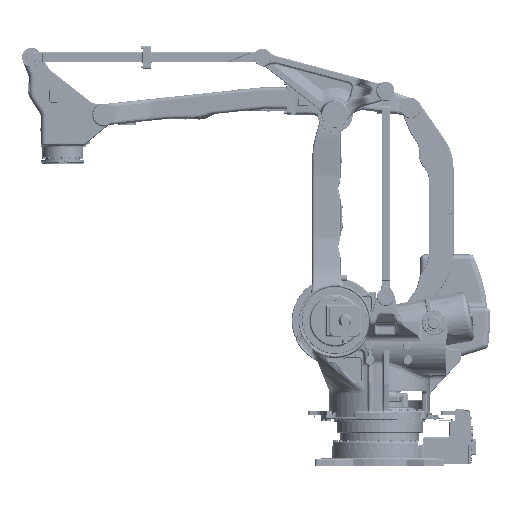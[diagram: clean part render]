
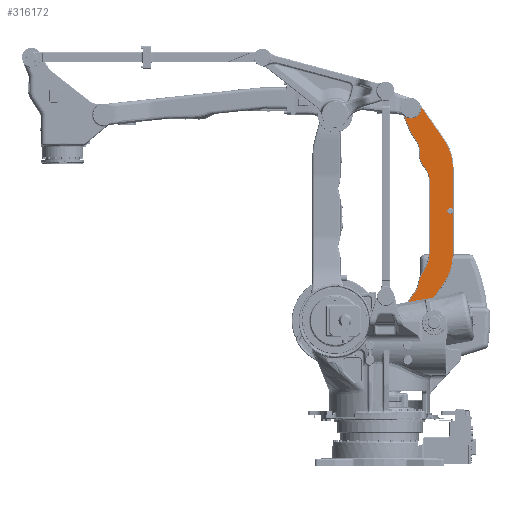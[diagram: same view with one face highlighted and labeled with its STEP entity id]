
A CAD part, top view. The second image highlights one B-rep face of the part: STEP entity #316172.
In plain terms, the highlighted planar face has unit normal (0, 0, 1).
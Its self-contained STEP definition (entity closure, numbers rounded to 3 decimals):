
#313957=DIRECTION('',(0.,1.,0.));
#313958=VECTOR('',#313957,250.596);
#313959=CARTESIAN_POINT('',(443.25,1284.546,-76.5));
#313960=LINE('',#313959,#313958);
#313961=CARTESIAN_POINT('',(138.25,1284.546,-76.5));
#313962=DIRECTION('',(0.,0.,1.));
#313963=DIRECTION('',(0.819,-0.574,0.));
#313964=AXIS2_PLACEMENT_3D('',#313961,#313962,#313963);
#313966=DIRECTION('',(0.574,0.819,0.));
#313967=VECTOR('',#313966,237.139);
#313968=CARTESIAN_POINT('',(252.074,915.353,
-76.5));
#313969=LINE('',#313968,#313967);
#313970=DIRECTION('',(-0.574,-0.819,0.));
#313971=VECTOR('',#313970,98.016);
#313972=CARTESIAN_POINT('',(218.187,1058.736,-76.5));
#313973=LINE('',#313972,#313971);
#313974=CARTESIAN_POINT('',(132.176,1118.961,-76.5));
#313975=DIRECTION('',(0.,0.,-1.));
#313976=DIRECTION('',(0.974,-0.228,0.));
#313977=AXIS2_PLACEMENT_3D('',#313974,#313975,#313976);
#313979=DIRECTION('',(-0.228,-0.974,0.));
#313980=VECTOR('',#313979,42.261);
#313981=CARTESIAN_POINT('',(244.051,1136.132,-76.5));
#313982=LINE('',#313981,#313980);
#313983=CARTESIAN_POINT('',(336.542,1114.441,-76.5));
#313984=DIRECTION('',(0.,0.,1.));
#313985=DIRECTION('',(-0.819,0.574,0.));
#313986=AXIS2_PLACEMENT_3D('',#313983,#313984,#313985);
#313988=DIRECTION('',(-0.574,-0.819,0.));
#313989=VECTOR('',#313988,12.994);
#313990=CARTESIAN_POINT('',(266.176,1179.575,-76.5));
#313991=LINE('',#313990,#313989);
#313992=CARTESIAN_POINT('',(98.25,1297.158,-76.5));
#313993=DIRECTION('',(0.,0.,-1.));
#313994=DIRECTION('',(1.,0.,0.));
#313995=AXIS2_PLACEMENT_3D('',#313992,#313993,#313994);
#313997=DIRECTION('',(0.,-1.,0.));
#313998=VECTOR('',#313997,437.397);
#313999=CARTESIAN_POINT('',(303.25,1734.555,-76.5));
#314000=LINE('',#313999,#313998);
#314001=CARTESIAN_POINT('',(198.25,1734.555,-76.5));
#314002=DIRECTION('',(0.,0.,-1.));
#314003=DIRECTION('',(0.819,0.574,0.));
#314004=AXIS2_PLACEMENT_3D('',#314001,#314002,#314003);
#314006=DIRECTION('',(0.574,-0.819,0.));
#314007=VECTOR('',#314006,41.547);
#314008=CARTESIAN_POINT('',(260.43,1828.814,-76.5));
#314009=LINE('',#314008,#314007);
#314010=CARTESIAN_POINT('',(338.25,1883.304,-76.5));
#314011=DIRECTION('',(0.,0.,1.));
#314012=DIRECTION('',(-1.,0.,0.));
#314013=AXIS2_PLACEMENT_3D('',#314010,#314011,#314012);
#314015=DIRECTION('',(0.,-1.,0.));
#314016=VECTOR('',#314015,26.94);
#314017=CARTESIAN_POINT('',(243.25,1910.244,-76.5));
#314018=LINE('',#314017,#314016);
#314019=CARTESIAN_POINT('',(138.25,1910.244,-76.5));
#314020=DIRECTION('',(0.,0.,-1.));
#314021=DIRECTION('',(0.819,0.574,0.));
#314022=AXIS2_PLACEMENT_3D('',#314019,#314020,#314021);
#314024=DIRECTION('',(0.574,-0.819,0.));
#314025=VECTOR('',#314024,44.674);
#314026=CARTESIAN_POINT('',(198.636,2007.065,-76.5));
#314027=LINE('',#314026,#314025);
#314028=CARTESIAN_POINT('',(276.456,2061.554,-76.5));
#314029=DIRECTION('',(0.,0.,1.));
#314030=DIRECTION('',(-0.924,-0.382,0.));
#314031=AXIS2_PLACEMENT_3D('',#314028,#314029,#314030);
#314033=DIRECTION('',(0.382,-0.924,0.));
#314034=VECTOR('',#314033,101.291);
#314035=CARTESIAN_POINT('',(149.943,2118.821,
-76.5));
#314036=LINE('',#314035,#314034);
#314037=DIRECTION('',(-0.574,0.819,0.));
#314038=VECTOR('',#314037,237.139);
#314039=CARTESIAN_POINT('',(388.091,1980.578,-76.5));
#314040=LINE('',#314039,#314038);
#314041=CARTESIAN_POINT('',(138.25,1805.637,-76.5));
#314042=DIRECTION('',(0.,0.,1.));
#314043=DIRECTION('',(1.,0.,0.));
#314044=AXIS2_PLACEMENT_3D('',#314041,#314042,#314043);
#314046=DIRECTION('',(0.,1.,0.));
#314047=VECTOR('',#314046,250.596);
#314048=CARTESIAN_POINT('',(443.25,1555.042,-76.5));
#314049=LINE('',#314048,#314047);
#314050=CARTESIAN_POINT('',(428.25,1545.092,-76.5));
#314051=DIRECTION('',(0.,0.,-1.));
#314052=DIRECTION('',(0.833,-0.553,0.));
#314053=AXIS2_PLACEMENT_3D('',#314050,#314051,#314052);
#314117=CARTESIAN_POINT('',(443.25,1535.142,-76.5));
#314130=CARTESIAN_POINT('',(443.25,1555.042,-76.5));
#314713=CARTESIAN_POINT('',(252.074,2174.831,
-76.5));
#314724=CARTESIAN_POINT('',(188.25,2170.092,-76.5));
#314725=DIRECTION('',(0.,0.,-1.));
#314726=DIRECTION('',(0.997,0.074,0.));
#314727=AXIS2_PLACEMENT_3D('',#314724,#314725,#314726);
#314749=CARTESIAN_POINT('',(149.943,2118.821,
-76.5));
#314887=CARTESIAN_POINT('',(188.25,920.092,-76.5));
#314888=DIRECTION('',(0.,0.,-1.));
#314889=DIRECTION('',(-0.411,0.912,0.));
#314890=AXIS2_PLACEMENT_3D('',#314887,#314888,#314889);
#315729=CARTESIAN_POINT('',(266.176,1179.575,-76.5));
#315730=CARTESIAN_POINT('',(258.722,1168.93,-76.5));
#315731=VERTEX_POINT('',#315729);
#315732=VERTEX_POINT('',#315730);
#315737=CARTESIAN_POINT('',(303.25,1297.158,-76.5));
#315738=VERTEX_POINT('',#315737);
#315741=CARTESIAN_POINT('',(303.25,1734.555,-76.5));
#315742=VERTEX_POINT('',#315741);
#315745=CARTESIAN_POINT('',(284.261,1794.781,-76.5));
#315746=VERTEX_POINT('',#315745);
#315749=CARTESIAN_POINT('',(260.43,1828.814,-76.5));
#315750=VERTEX_POINT('',#315749);
#315753=CARTESIAN_POINT('',(243.25,1883.304,-76.5));
#315754=VERTEX_POINT('',#315753);
#315757=CARTESIAN_POINT('',(243.25,1910.244,-76.5));
#315758=VERTEX_POINT('',#315757);
#315761=CARTESIAN_POINT('',(224.261,1970.47,-76.5));
#315762=VERTEX_POINT('',#315761);
#315765=CARTESIAN_POINT('',(198.636,2007.065,-76.5));
#315766=VERTEX_POINT('',#315765);
#315769=CARTESIAN_POINT('',(188.676,2025.228,-76.5));
#315770=VERTEX_POINT('',#315769);
#315820=VERTEX_POINT('',#314749);
#315821=CARTESIAN_POINT('',(161.967,978.446,
-76.5));
#315823=VERTEX_POINT('',#315821);
#315866=VERTEX_POINT('',#314713);
#315867=CARTESIAN_POINT('',(388.091,1980.578,-76.5));
#315868=VERTEX_POINT('',#315867);
#315871=CARTESIAN_POINT('',(443.25,1805.637,-76.5));
#315872=VERTEX_POINT('',#315871);
#315877=CARTESIAN_POINT('',(388.091,1109.605,-76.5));
#315878=CARTESIAN_POINT('',(443.25,1284.546,-76.5));
#315879=VERTEX_POINT('',#315877);
#315880=VERTEX_POINT('',#315878);
#315883=CARTESIAN_POINT('',(252.074,915.353,
-76.5));
#315884=VERTEX_POINT('',#315883);
#315901=VERTEX_POINT('',#314117);
#315902=VERTEX_POINT('',#314130);
#315919=CARTESIAN_POINT('',(244.051,1136.132,-76.5));
#315920=CARTESIAN_POINT('',(234.402,1094.987,-76.5));
#315921=VERTEX_POINT('',#315919);
#315922=VERTEX_POINT('',#315920);
#315931=CARTESIAN_POINT('',(218.187,1058.736,-76.5));
#315932=VERTEX_POINT('',#315931);
#316117=CARTESIAN_POINT('',(188.25,920.092,-76.5));
#316118=DIRECTION('',(0.,0.,-1.));
#316119=DIRECTION('',(-1.,0.,0.));
#316120=AXIS2_PLACEMENT_3D('',#316117,#316118,#316119);
#316121=PLANE('',#316120);
#316123=ORIENTED_EDGE('',*,*,#316122,.F.);
#316125=ORIENTED_EDGE('',*,*,#316124,.F.);
#316127=ORIENTED_EDGE('',*,*,#316126,.F.);
#316129=ORIENTED_EDGE('',*,*,#316128,.F.);
#316131=ORIENTED_EDGE('',*,*,#316130,.F.);
#316133=ORIENTED_EDGE('',*,*,#316132,.F.);
#316135=ORIENTED_EDGE('',*,*,#316134,.F.);
#316137=ORIENTED_EDGE('',*,*,#316136,.F.);
#316139=ORIENTED_EDGE('',*,*,#316138,.F.);
#316141=ORIENTED_EDGE('',*,*,#316140,.F.);
#316143=ORIENTED_EDGE('',*,*,#316142,.F.);
#316145=ORIENTED_EDGE('',*,*,#316144,.F.);
#316147=ORIENTED_EDGE('',*,*,#316146,.F.);
#316149=ORIENTED_EDGE('',*,*,#316148,.F.);
#316151=ORIENTED_EDGE('',*,*,#316150,.F.);
#316153=ORIENTED_EDGE('',*,*,#316152,.F.);
#316155=ORIENTED_EDGE('',*,*,#316154,.F.);
#316157=ORIENTED_EDGE('',*,*,#316156,.F.);
#316159=ORIENTED_EDGE('',*,*,#316158,.F.);
#316161=ORIENTED_EDGE('',*,*,#316160,.F.);
#316163=ORIENTED_EDGE('',*,*,#316162,.F.);
#316165=ORIENTED_EDGE('',*,*,#316164,.F.);
#316167=ORIENTED_EDGE('',*,*,#316166,.F.);
#316169=ORIENTED_EDGE('',*,*,#316168,.F.);
#316170=EDGE_LOOP('',(#316123,#316125,#316127,#316129,#316131,#316133,#316135,
#316137,#316139,#316141,#316143,#316145,#316147,#316149,#316151,#316153,#316155,
#316157,#316159,#316161,#316163,#316165,#316167,#316169));
#316171=FACE_OUTER_BOUND('',#316170,.F.);
#316172=ADVANCED_FACE('',(#316171),#316121,.F.);
#313965=CIRCLE('',#313964,305.);
#313978=CIRCLE('',#313977,105.);
#313987=CIRCLE('',#313986,95.);
#313996=CIRCLE('',#313995,205.);
#314005=CIRCLE('',#314004,105.);
#314014=CIRCLE('',#314013,95.);
#314023=CIRCLE('',#314022,105.);
#314032=CIRCLE('',#314031,95.);
#314045=CIRCLE('',#314044,305.);
#314054=CIRCLE('',#314053,18.);
#314728=CIRCLE('',#314727,64.);
#314891=CIRCLE('',#314890,64.);
#316122=EDGE_CURVE('',#315901,#315902,#314054,.T.);
#316124=EDGE_CURVE('',#315880,#315901,#313960,.T.);
#316126=EDGE_CURVE('',#315879,#315880,#313965,.T.);
#316128=EDGE_CURVE('',#315884,#315879,#313969,.T.);
#316130=EDGE_CURVE('',#315823,#315884,#314891,.T.);
#316132=EDGE_CURVE('',#315932,#315823,#313973,.T.);
#316134=EDGE_CURVE('',#315922,#315932,#313978,.T.);
#316136=EDGE_CURVE('',#315921,#315922,#313982,.T.);
#316138=EDGE_CURVE('',#315732,#315921,#313987,.T.);
#316140=EDGE_CURVE('',#315731,#315732,#313991,.T.);
#316142=EDGE_CURVE('',#315738,#315731,#313996,.T.);
#316144=EDGE_CURVE('',#315742,#315738,#314000,.T.);
#316146=EDGE_CURVE('',#315746,#315742,#314005,.T.);
#316148=EDGE_CURVE('',#315750,#315746,#314009,.T.);
#316150=EDGE_CURVE('',#315754,#315750,#314014,.T.);
#316152=EDGE_CURVE('',#315758,#315754,#314018,.T.);
#316154=EDGE_CURVE('',#315762,#315758,#314023,.T.);
#316156=EDGE_CURVE('',#315766,#315762,#314027,.T.);
#316158=EDGE_CURVE('',#315770,#315766,#314032,.T.);
#316160=EDGE_CURVE('',#315820,#315770,#314036,.T.);
#316162=EDGE_CURVE('',#315866,#315820,#314728,.T.);
#316164=EDGE_CURVE('',#315868,#315866,#314040,.T.);
#316166=EDGE_CURVE('',#315872,#315868,#314045,.T.);
#316168=EDGE_CURVE('',#315902,#315872,#314049,.T.);
